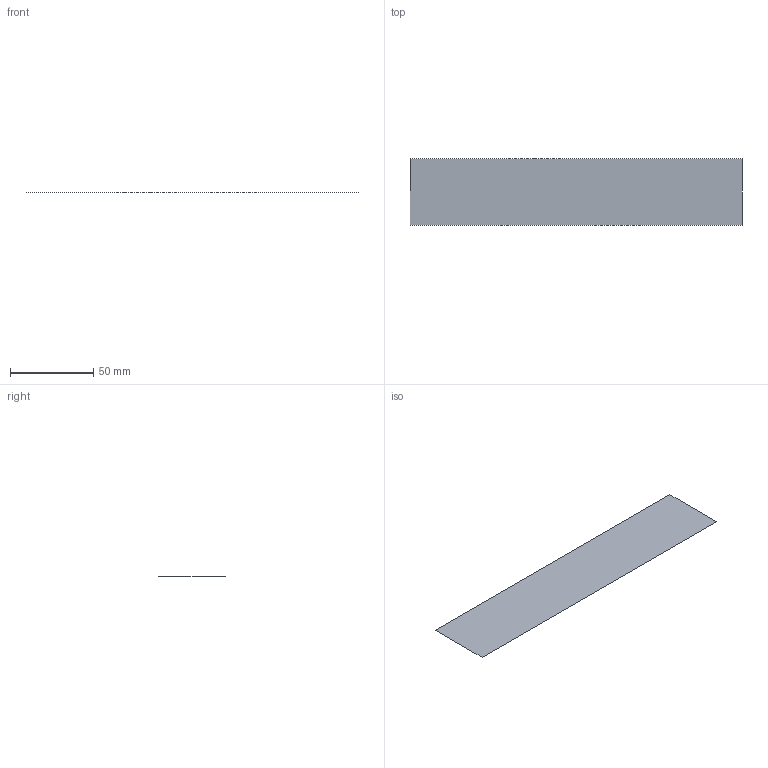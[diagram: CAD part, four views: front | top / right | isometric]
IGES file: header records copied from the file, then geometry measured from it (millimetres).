
Start section: 3D InterOp IGES (v. 2019 1.0.0), Spatial Corp. Copyright (c) 1999-2017.
Global section: file name: UDF-SolidModle.igs; native system: Spatial Corp.; preprocessor: 3D InterOp ACIS/IGES; author: Noname; organization: Noname; date: 20220415.151239; units: millimetre
Bounding box: 200 x 40 x 0 mm (x, y, z)
Surface area: 8000 mm2 (no closed solid volume)
Topology: 0 solids, 0 shells, 1 faces, 4 edges, 4 vertices
Faces by surface type: extrusion 1
